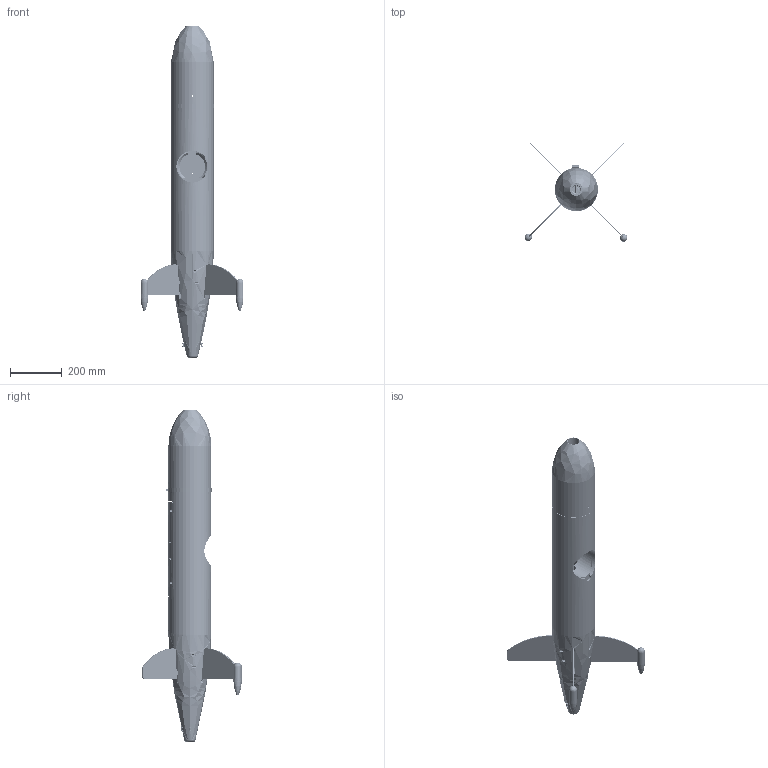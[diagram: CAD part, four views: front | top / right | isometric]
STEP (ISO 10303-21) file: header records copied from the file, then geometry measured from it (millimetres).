
FILE_DESCRIPTION (( 'STEP AP214' ), '1' );
FILE_NAME ('towbody_assy_battery.STEP', '2015-05-21T20:57:20', ( '' ), ( '' ), 'SwSTEP 2.0', 'SolidWorks 2014', '' );
FILE_SCHEMA (( 'AUTOMOTIVE_DESIGN' ));
Length unit declared in the file: millimetre
Products named in the file (68): 06728; 05981; 06075; 06731; 05981-02; 02757; 02544-XXX_AS568-010, 6.07mm ID, 1.52mm THK; 05981-01; 02518-XX-XXX_M5x0.8, 20mm; 03225; 02518-XX-XXX_M5x0.8, 12mm; 04356; 03171; 06724; 06725; 03871; 06971_part; 02516-XX-XXX_M5x0.8, 10mm; 06730_drawing; 03168; 02587-XX_M4x0.7; 01250; 06106_94150A355; 03900_REV_A; 02517-XX-XXX_M4x0.7, 14mm; 02580; 06105; 03138; 02516-XX-XXX_M4x0.7, 10mm; 02581; 06100_93635A148; 02875; 02516-XX-XXX_M3x0.5, 4mm; 02522-XXX_AS568-114, 15.5mm ID, 2.61mm THK; 06099; 03159; 02534-XX-XXX_M3x0.5, 6mm; 06098; 02818; 02525-XX_8mm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
Assembly tree (143 placements, depth 4):
  towbody_assy_battery
    06722
    06721
    07170
    01478
    02818-01
    02818  x2
    03159  x2
    02875  x4
    03138  x4
    03900_REV_A  x2
    03168  x2
    03871  x2
    03171
    03225  x2
    05981
      05981-01
      05981-02  x2
    03520
    03521
    03878  x4
    02522-XXX_AS568-253, 136.mm ID, 3.53mm THK  x2
    02517-XX-XXX_M5x0.8, 20mm  x4
    02517-XX-XXX_M5x0.8, 16mm  x6
    02524-XX-XXX_M6x1, 16mm  x2
    02522-XXX_AS568-114, 15.5mm ID, 2.61mm THK
    02581
    02580
    01250
    02516-XX-XXX_M5x0.8, 10mm  x4
    06730_drawing
      06724
      02518-XX-XXX_M5x0.8, 12mm  x4
      02518-XX-XXX_M5x0.8, 20mm  x4
      02757  x4
      06075
      06076
      06078
      06079
      06084_93635A326
      06085  x2
      06086_initial assembly  x4
      06087  x2
      06088  x2
      06098
      06099  x2
      06100_93635A148
      06105
      06106_94150A355  x2
    06725  x3
    04356
    02544-XXX_AS568-010, 6.07mm ID, 1.52mm THK
    06731
    06971_part
      06728
        06728
        FH-M4-8ZI  x4
      06727  x2
      06335
      01243
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Bounding box: 398.73 x 384.93 x 1285.26 mm (x, y, z)
Volume: 13951993.8 mm3; surface area: 2447092 mm2
Topology: 299 solids, 299 shells, 7206 faces, 17170 edges, 10456 vertices
Faces by surface type: plane 3346, cylinder 2491, cone 729, torus 262, sphere 202, bspline 176
Entity records: 222899 total; most frequent: CARTESIAN_POINT 47713, DIRECTION 28070, ORIENTED_EDGE 26862, EDGE_CURVE 13431, AXIS2_PLACEMENT_3D 9985, VERTEX_POINT 8354, VECTOR 8100, LINE 8100
